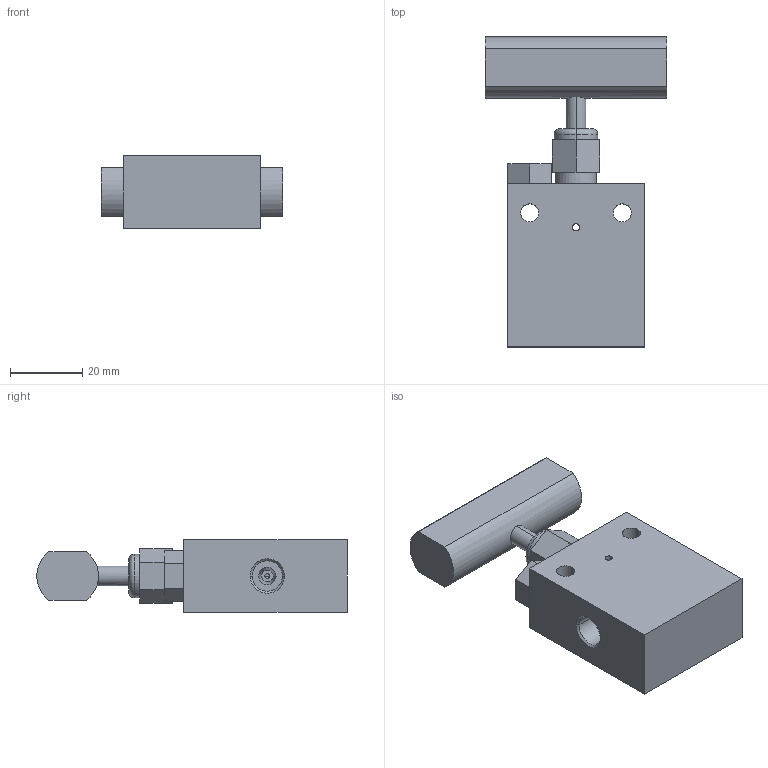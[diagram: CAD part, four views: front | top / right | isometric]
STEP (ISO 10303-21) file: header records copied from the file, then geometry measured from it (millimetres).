
FILE_DESCRIPTION (( 'STEP AP203' ), '1' );
FILE_NAME ('NV15VS02-S-00-00.STEP', '2023-02-22T07:30:36', ( 'USER' ), ( '' ), 'SwSTEP 2.0', 'SolidWorks 2020', '' );
FILE_SCHEMA (( 'CONFIG_CONTROL_DESIGN' ));
Length unit declared in the file: millimetre
Products named in the file (1): NV15VS02-S-00-00
Bounding box: 50 x 85.56 x 20 mm (x, y, z)
Volume: 45102.2 mm3; surface area: 12215.4 mm2
Topology: 1 solids, 1 shells, 81 faces, 186 edges, 118 vertices
Faces by surface type: cylinder 34, plane 33, cone 12, torus 2
Entity records: 2559 total; most frequent: CARTESIAN_POINT 588, DIRECTION 410, ORIENTED_EDGE 372, EDGE_CURVE 186, AXIS2_PLACEMENT_3D 154, VERTEX_POINT 118, EDGE_LOOP 102, VECTOR 102
